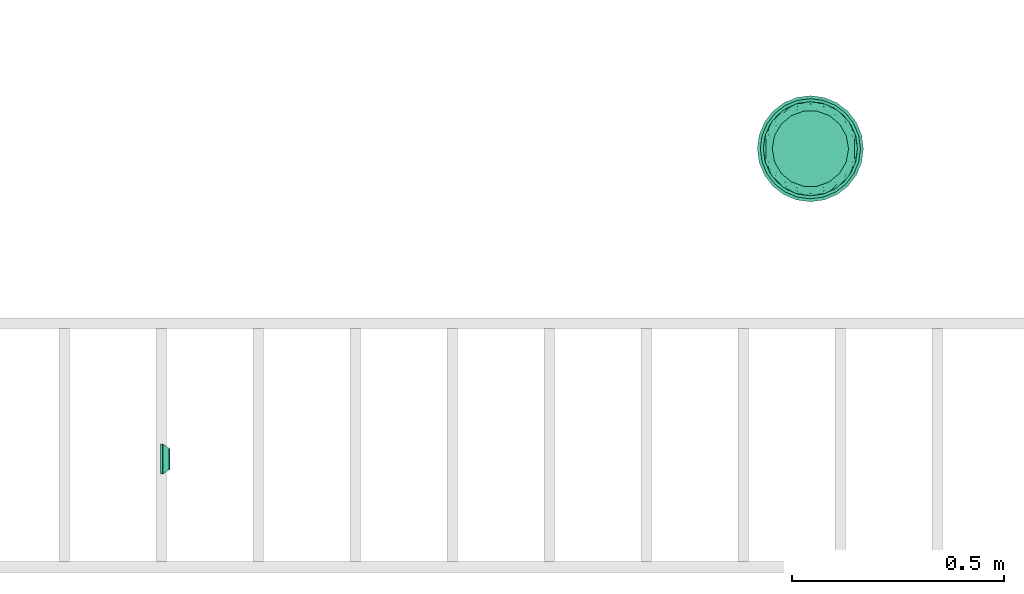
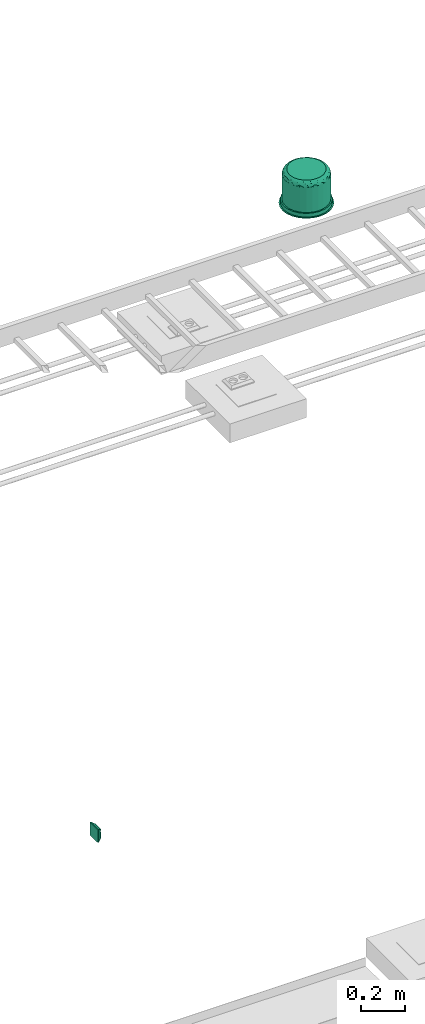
# One storey, part 7 of 24: 2 flow terminals.
"""IFC2X3 building model written with IfcOpenShell, lengths in millimetres."""

from ifc_helpers import new_model, entity, si_unit, converted_unit, derived_unit, direction, frame, origin_with_axes, place, context, subcontext, project, spatial, open_shell, surface_model, source, transform, mapped, type_object, element, save


model = new_model("IFC2X3")

# Units and contexts
model_context = context("Model", 3, precision=0.01, world=frame((0.0, 4.29681676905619e-09, 0.0)), true_north=direction((4.01073788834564e-13, 1.0)))
plan_context = context("Plan", 3, precision=0.01, world=frame((0.0, 4.29681676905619e-09, 0.0)), true_north=direction((4.01073788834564e-13, 1.0)))
body_context = subcontext(model_context, "Body", "Model", "MODEL_VIEW")
ifc_project = project(units=[converted_unit("PLANEANGLEUNIT", "DEGREE", entity("IfcPositiveLengthMeasure", 0.0174532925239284), si_unit("PLANEANGLEUNIT", "RADIAN"), dimensions=[0, 0, 0, 0, 0, 0, 0]), si_unit("AREAUNIT", "SQUARE_METRE"), si_unit("LENGTHUNIT", "METRE", prefix="MILLI"), si_unit("MASSUNIT", "GRAM", prefix="KILO"), si_unit("POWERUNIT", "WATT"), si_unit("PRESSUREUNIT", "PASCAL"), si_unit("FORCEUNIT", "NEWTON", prefix="KILO"), si_unit("ELECTRICVOLTAGEUNIT", "VOLT"), si_unit("ELECTRICCURRENTUNIT", "AMPERE"), si_unit("THERMODYNAMICTEMPERATUREUNIT", "DEGREE_CELSIUS"), si_unit("TIMEUNIT", "SECOND"), si_unit("VOLUMEUNIT", "CUBIC_METRE"), derived_unit("LINEARVELOCITYUNIT", [(si_unit("LENGTHUNIT", "METRE"), 1), (si_unit("TIMEUNIT", "SECOND"), -1)]), derived_unit("VOLUMETRICFLOWRATEUNIT", [(si_unit("VOLUMEUNIT", "CUBIC_METRE"), 1), (si_unit("TIMEUNIT", "SECOND"), -1)]), derived_unit("THERMALTRANSMITTANCEUNIT", [(si_unit("POWERUNIT", "WATT"), 1), (si_unit("THERMODYNAMICTEMPERATUREUNIT", "KELVIN"), -1), (si_unit("AREAUNIT", "SQUARE_METRE"), -1)]), derived_unit("SOUNDPRESSUREUNIT", [(si_unit("PRESSUREUNIT", "PASCAL"), 1)])], contexts=[model_context, plan_context])

# Site, building, storey
site_placement = place(None, frame((0.0, -4.29681676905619e-09, 0.0), z_axis=(0.0, 0.0, 1.0), x_axis=(1.0, 0.0, 0.0)))
site = spatial("IfcSite", under=ifc_project, at=site_placement, Name="ENGM", CompositionType="ELEMENT")
building_placement = place(site_placement, frame((0.0, 4.29681676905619e-09, 0.0), z_axis=(0.0, 0.0, 1.0), x_axis=(1.0, 0.0, 0.0)))
building = spatial("IfcBuilding", under=site, at=building_placement, Name="TH", CompositionType="ELEMENT")
storey_placement = place(building_placement, frame((0.0, 0.0, 210200.0), z_axis=(0.0, 0.0, 1.0), x_axis=(1.0, 0.0, 0.0)))
storey = spatial("IfcBuildingStorey", under=building, at=storey_placement, Name="Nivå F - 0,7 m", CompositionType="ELEMENT", Elevation=210200.0)

# Flow terminals
outlet_type = type_object("IfcOutletType", Name="Datauttak enkelt Vegg - IKT", PredefinedType="COMMUNICATIONSOUTLET")
shared_shape_1 = source(origin_with_axes(), body_context, "Body", "SurfaceModel", [
    surface_model("IfcShellBasedSurfaceModel", [(35.5, 5.05547, 35.5832), (25.5, 20.05547, 25.5832), (-35.5, 5.05547, 35.5832), (-25.5, 20.05547, 25.5832), (-35.5, 4.94453, 35.41679), (-25.5, 19.94453, 25.41679), (25.5, 19.94453, 25.41679), (35.5, 4.94453, 35.41679), (35.5, 4.94453, -35.41679), (25.5, 19.94453, -25.41679), (-35.5, 4.94453, -35.41679), (-25.5, 19.94453, -25.41679), (-35.5, 5.05547, -35.5832), (-25.5, 20.05547, -25.5832), (25.5, 20.05547, -25.5832), (35.5, 5.05547, -35.5832), (-25.5832, 20.05547, -25.5), (-35.5832, 5.05547, -35.5), (-35.5832, 5.05547, 35.5), (-25.5832, 20.05547, 25.5), (-25.41679, 19.94453, 25.5), (-35.41679, 4.94453, 35.5), (-25.41679, 19.94453, -25.5), (-35.41679, 4.94453, -35.5), (25.41679, 19.94453, -25.5), (35.41679, 4.94453, -35.5), (35.41679, 4.94453, 35.5), (25.41679, 19.94453, 25.5), (25.5832, 20.05547, 25.5), (35.5832, 5.05547, 35.5), (25.5832, 20.05547, -25.5), (35.5832, 5.05547, -35.5), (35.4, 5.0, -35.5), (35.4, 0.0, -35.5), (35.4, 0.0, 35.5), (35.4, 5.0, 35.5), (35.6, 5.0, 35.5), (35.6, 0.0, 35.5), (35.6, 0.0, -35.5), (35.6, 5.0, -35.5), (-35.5, 0.0, -35.6), (-35.5, 5.0, -35.6), (35.5, 5.0, -35.6), (35.5, 0.0, -35.6), (35.5, 0.0, -35.4), (35.5, 5.0, -35.4), (-35.5, 5.0, -35.4), (-35.5, 0.0, -35.4), (-35.6, 5.0, -35.5), (-35.6, 0.0, -35.5), (-35.6, 0.0, 35.5), (-35.6, 5.0, 35.5), (-35.4, 5.0, 35.5), (-35.4, 0.0, 35.5), (-35.4, 0.0, -35.5), (-35.4, 5.0, -35.5), (-35.5, -0.1, -35.5), (35.5, -0.1, -35.5), (35.5, -0.1, 35.5), (-35.5, -0.1, 35.5), (-35.5, 0.1, 35.5), (35.5, 0.1, 35.5), (35.5, 0.1, -35.5), (-35.5, 0.1, -35.5), (-35.5, 0.0, 35.4), (-35.5, 5.0, 35.4), (35.5, 5.0, 35.4), (35.5, 0.0, 35.4), (35.5, 0.0, 35.6), (35.5, 5.0, 35.6), (-35.5, 5.0, 35.6), (-35.5, 0.0, 35.6), (-25.5, 19.9, -25.5), (25.5, 19.9, -25.5), (25.5, 19.9, 25.5), (-25.5, 19.9, 25.5), (-25.5, 20.1, 25.5), (25.5, 20.1, 25.5), (25.5, 20.1, -25.5), (-25.5, 20.1, -25.5), (-25.5, 22.0, 25.5), (-25.5, 20.0, 25.5), (25.5, 20.0, 25.5), (25.5, 22.0, 25.5), (25.5, 22.0, 20.5), (25.5, 20.0, 20.5), (-25.5, 20.0, 20.5), (-25.5, 22.0, 20.5), (-25.5, 22.0, 10.5), (-25.5, 20.0, 10.5), (25.5, 20.0, 10.5), (25.5, 22.0, 10.5), (25.5, 22.0, -25.5), (25.5, 20.0, -25.5), (-25.5, 20.0, -25.5), (-25.5, 22.0, -25.5), (-7.5, 21.91, -6.5), (7.5, 21.91, -6.5), (7.5, 21.91, 8.5), (-7.5, 21.91, 8.5), (-7.5, 22.11, 8.5), (7.5, 22.11, 8.5), (-7.5, 22.11, -6.5), (7.5, 22.11, -6.5)], [open_shell([[[0, 1, 2]], [[3, 2, 1]], [[4, 5, 6]], [[6, 7, 4]], [[3, 1, 6]], [[6, 5, 3]], [[2, 3, 4]], [[5, 4, 3]], [[0, 2, 7]], [[4, 7, 2]], [[1, 0, 6]], [[7, 6, 0]], [[8, 9, 10]], [[11, 10, 9]], [[12, 13, 14]], [[14, 15, 12]], [[11, 9, 14]], [[14, 13, 11]], [[10, 11, 12]], [[13, 12, 11]], [[8, 10, 12]], [[12, 15, 8]], [[9, 8, 14]], [[15, 14, 8]], [[16, 17, 18]], [[18, 19, 16]], [[20, 21, 22]], [[23, 22, 21]], [[18, 17, 23]], [[23, 21, 18]], [[19, 18, 20]], [[21, 20, 18]], [[16, 19, 20]], [[20, 22, 16]], [[17, 16, 22]], [[22, 23, 17]], [[24, 25, 26]], [[26, 27, 24]], [[28, 29, 30]], [[31, 30, 29]], [[26, 25, 31]], [[31, 29, 26]], [[27, 26, 28]], [[29, 28, 26]], [[24, 27, 28]], [[28, 30, 24]], [[25, 24, 30]], [[30, 31, 25]], [[32, 33, 34]], [[34, 35, 32]], [[36, 37, 38]], [[38, 39, 36]], [[34, 33, 38]], [[38, 37, 34]], [[35, 34, 37]], [[37, 36, 35]], [[32, 35, 36]], [[36, 39, 32]], [[33, 32, 39]], [[39, 38, 33]], [[40, 41, 42]], [[42, 43, 40]], [[44, 45, 46]], [[46, 47, 44]], [[42, 41, 46]], [[46, 45, 42]], [[43, 42, 45]], [[45, 44, 43]], [[40, 43, 44]], [[44, 47, 40]], [[41, 40, 47]], [[47, 46, 41]], [[48, 49, 50]], [[50, 51, 48]], [[52, 53, 54]], [[54, 55, 52]], [[50, 49, 54]], [[54, 53, 50]], [[51, 50, 53]], [[53, 52, 51]], [[48, 51, 52]], [[52, 55, 48]], [[49, 48, 55]], [[55, 54, 49]], [[56, 57, 58]], [[58, 59, 56]], [[60, 61, 62]], [[62, 63, 60]], [[58, 57, 62]], [[62, 61, 58]], [[59, 58, 61]], [[61, 60, 59]], [[56, 59, 60]], [[60, 63, 56]], [[57, 56, 63]], [[63, 62, 57]], [[64, 65, 66]], [[66, 67, 64]], [[68, 69, 70]], [[70, 71, 68]], [[66, 65, 70]], [[70, 69, 66]], [[67, 66, 69]], [[69, 68, 67]], [[64, 67, 68]], [[68, 71, 64]], [[65, 64, 71]], [[71, 70, 65]], [[72, 73, 74]], [[74, 75, 72]], [[76, 77, 78]], [[78, 79, 76]], [[74, 73, 78]], [[78, 77, 74]], [[75, 74, 77]], [[77, 76, 75]], [[72, 75, 76]], [[76, 79, 72]], [[73, 72, 79]], [[79, 78, 73]], [[80, 81, 82]], [[82, 83, 80]], [[84, 85, 86]], [[86, 87, 84]], [[82, 81, 86]], [[86, 85, 82]], [[83, 82, 85]], [[85, 84, 83]], [[80, 83, 84]], [[84, 87, 80]], [[81, 80, 87]], [[87, 86, 81]], [[88, 89, 90]], [[90, 91, 88]], [[92, 93, 94]], [[94, 95, 92]], [[90, 89, 94]], [[94, 93, 90]], [[91, 90, 93]], [[93, 92, 91]], [[88, 91, 92]], [[92, 95, 88]], [[89, 88, 95]], [[95, 94, 89]], [[96, 97, 98]], [[98, 99, 96]], [[100, 101, 102]], [[103, 102, 101]], [[98, 97, 103]], [[103, 101, 98]], [[99, 98, 101]], [[101, 100, 99]], [[96, 99, 100]], [[100, 102, 96]], [[97, 96, 102]], [[102, 103, 97]]])]),
])
flow_terminal_1_placement = place(storey_placement, frame((895512.745, 483447.19745, 200.0), z_axis=(0.0, 0.0, 1.0), x_axis=(0.0, -1.0, 0.0)))
element("IfcFlowTerminal", 1, at=flow_terminal_1_placement, inside=storey, type_object=outlet_type, Name="Datauttak enkelt Vegg - IKT", context=body_context, shape_type="MappedRepresentation", body=[
    mapped(shared_shape_1, transform((0.0, 0.0, 0.0), scale=1.0)),
])
electric_appliance_type = type_object("IfcElectricApplianceType", Name="Høyttaler innfelt", PredefinedType="NOTDEFINED")
shared_shape_2 = source(origin_with_axes(), body_context, "Body", "SurfaceModel", [
    surface_model("IfcShellBasedSurfaceModel", [(-68.944, 57.85088, 184.0), (-58.59195, 79.97902, 179.50754), (-80.0329, 55.28406, 180.76938), (-78.29994, 75.83774, 166.88554), (-50.40099, 96.24365, 167.73947), (-65.24416, 89.80089, 159.0), (-45.0, 77.94229, 184.0), (104.29833, 0.0, 174.69059), (98.55658, 30.89802, 175.83351), (97.14917, 0.0, 179.3453), (-98.55658, 30.89802, 175.83351), (-104.29833, 0.0, 174.69059), (-97.14917, 0.0, 179.3453), (93.09772, 49.71788, 173.10261), (104.32878, 23.10743, 171.13623), (97.92626, 46.3605, 168.38431), (-15.62834, 88.6327, 184.0), (-30.79138, 92.23996, 180.78615), (-104.32878, 23.10743, 171.13623), (55.89313, 88.54638, 174.18746), (30.93861, 99.42219, 174.89528), (58.59195, 79.97902, 179.50754), (-97.92626, 46.3605, 168.38431), (-93.09772, 49.71788, 173.10261), (-61.47959, 85.0435, 173.90083), (-30.93861, 99.42219, 174.89528), (45.0, 77.94229, 184.0), (68.944, 57.85088, 184.0), (-84.57234, 30.78181, 184.0), (-92.49153, 28.27678, 181.10339), (-89.80089, 65.24416, 159.0), (17.39577, 107.47851, 167.19599), (34.30089, 105.56728, 159.0), (0.0, 111.0, 159.0), (-34.30089, 105.56728, 159.0), (-17.39574, 107.47094, 167.21376), (30.79138, 92.23996, 180.78615), (0.0, 99.14465, 179.50754), (15.62834, 88.6327, 184.0), (-81.90835, 64.40302, 174.81219), (0.05017, 105.30857, 173.41796), (80.0329, 55.28406, 180.76938), (84.57234, 30.78181, 184.0), (90.0, 0.0, 184.0), (92.49153, 28.27678, 181.10339), (50.40099, 96.24365, 167.73947), (89.80089, 65.24416, 159.0), (105.56728, 34.30089, 159.0), (65.24416, 89.80089, 159.0), (-105.56728, 34.30089, 159.0), (78.29994, 75.83774, 166.88554), (105.52114, 29.61929, 165.29825), (90.11049, 46.65977, 177.6147), (-90.11049, 46.65977, 177.6147), (-107.8502, 0.0, 166.3746), (-105.52114, 29.61929, 165.29825), (-90.0, 0.0, 184.0), (81.90835, 64.40302, 174.81219), (-111.0, 0.0, 159.0), (111.0, 0.0, 159.0), (107.8502, 0.0, 166.3746), (68.944, -57.85088, 184.0), (58.59195, -79.97902, 179.50754), (80.0329, -55.28406, 180.76938), (78.29994, -75.83774, 166.88554), (50.40099, -96.24365, 167.73947), (65.24416, -89.80089, 159.0), (45.0, -77.94229, 184.0), (-98.55658, -30.89802, 175.83351), (98.55658, -30.89802, 175.83351), (-93.09772, -49.71788, 173.10261), (-104.32878, -23.10743, 171.13623), (-97.92626, -46.3605, 168.38431), (15.62834, -88.6327, 184.0), (30.79138, -92.23996, 180.78615), (104.32878, -23.10743, 171.13623), (-55.89313, -88.54638, 174.18746), (-30.93861, -99.42219, 174.89528), (-58.59195, -79.97902, 179.50754), (97.92626, -46.3605, 168.38431), (93.09772, -49.71788, 173.10261), (61.47959, -85.0435, 173.90083), (30.93861, -99.42219, 174.89528), (-45.0, -77.94229, 184.0), (-68.944, -57.85088, 184.0), (84.57234, -30.78181, 184.0), (92.49153, -28.27678, 181.10339), (89.80089, -65.24416, 159.0), (-17.39577, -107.47851, 167.19599), (-34.30089, -105.56728, 159.0), (0.0, -111.0, 159.0), (34.30089, -105.56728, 159.0), (17.39574, -107.47094, 167.21376), (81.90835, -64.40302, 174.81219), (-30.79138, -92.23996, 180.78615), (-15.62834, -88.6327, 184.0), (0.0, -99.14465, 179.50754), (-0.05017, -105.30857, 173.41796), (-80.0329, -55.28406, 180.76938), (-84.57234, -30.78181, 184.0), (-92.49153, -28.27678, 181.10339), (-50.40099, -96.24365, 167.73947), (-89.80089, -65.24416, 159.0), (-105.56728, -34.30089, 159.0), (-65.24416, -89.80089, 159.0), (-78.29994, -75.83774, 166.88554), (-90.11049, -46.65977, 177.6147), (-105.52114, -29.61929, 165.29825), (105.56728, -34.30089, 159.0), (90.11049, -46.65977, 177.6147), (105.52114, -29.61929, 165.29825), (-81.90835, -64.40302, 174.81219), (0.0, 0.0, 159.0), (0.0, 0.0, 184.0), (96.12882, -55.5, 159.0), (28.72892, -107.21777, 159.0), (55.5, -96.12882, 159.0), (78.48885, -78.48885, 159.0), (107.21777, -28.72892, 159.0), (-78.48885, -78.48885, 159.0), (-96.12882, 55.5, 159.0), (-55.5, -96.12882, 159.0), (-28.72892, -107.21777, 159.0), (-96.12882, -55.5, 159.0), (-107.21777, -28.72892, 159.0), (107.21777, 28.72892, 159.0), (55.5, 96.12882, 159.0), (96.12882, 55.5, 159.0), (78.48885, 78.48885, 159.0), (28.72892, 107.21777, 159.0), (-28.72892, 107.21777, 159.0), (-107.21777, 28.72892, 159.0), (-78.48885, 78.48885, 159.0), (-55.5, 96.12882, 159.0), (28.72892, 107.21777, 20.0), (-28.72892, 107.21777, 20.0), (0.0, 111.0, 20.0), (96.12882, 55.5, 20.0), (55.5, 96.12882, 20.0), (107.21777, 28.72892, 20.0), (78.48885, 78.48885, 20.0), (-96.12882, 55.5, 20.0), (-78.48885, 78.48885, 20.0), (-55.5, 96.12882, 20.0), (-107.21777, 28.72892, 20.0), (-96.12882, -55.5, 20.0), (-111.0, 0.0, 20.0), (-78.48885, -78.48885, 20.0), (111.0, 0.0, 20.0), (107.21777, -28.72892, 20.0), (96.12882, -55.5, 20.0), (28.72892, -107.21777, 20.0), (55.5, -96.12882, 20.0), (78.48885, -78.48885, 20.0), (-107.21777, -28.72892, 20.0), (-55.5, -96.12882, 20.0), (0.0, -111.0, 20.0), (-28.72892, -107.21777, 20.0), (0.0, -118.0, 20.0), (30.54065, -113.97924, 20.0), (59.0, -102.191, 20.0), (83.4386, -83.4386, 20.0), (102.191, -59.0, 20.0), (113.97924, -30.54065, 20.0), (118.0, 0.0, 20.0), (-30.54065, -113.97924, 20.0), (-83.4386, -83.4386, 20.0), (-59.0, -102.191, 20.0), (-118.0, 0.0, 20.0), (-102.191, -59.0, 20.0), (-113.97924, -30.54065, 20.0), (113.97924, 30.54065, 20.0), (102.191, 59.0, 20.0), (83.4386, 83.4386, 20.0), (59.0, 102.191, 20.0), (30.54065, 113.97924, 20.0), (0.0, 118.0, 20.0), (-30.54065, 113.97924, 20.0), (-102.191, 59.0, 20.0), (-113.97924, 30.54065, 20.0), (-83.4386, 83.4386, 20.0), (-59.0, 102.191, 20.0), (0.0, 118.0, 0.0), (30.54065, 113.97924, 0.0), (59.0, 102.191, 0.0), (-83.4386, 83.4386, 0.0), (83.4386, 83.4386, 0.0), (102.191, 59.0, 0.0), (113.97924, 30.54065, 0.0), (-118.0, 0.0, 0.0), (-113.97924, -30.54065, 0.0), (-30.54065, 113.97924, 0.0), (-59.0, 102.191, 0.0), (-102.191, 59.0, 0.0), (-113.97924, 30.54065, 0.0), (118.0, 0.0, 0.0), (113.97924, -30.54065, 0.0), (102.191, -59.0, 0.0), (83.4386, -83.4386, 0.0), (59.0, -102.191, 0.0), (30.54065, -113.97924, 0.0), (-83.4386, -83.4386, 0.0), (-102.191, -59.0, 0.0), (-30.54065, -113.97924, 0.0), (-59.0, -102.191, 0.0), (0.0, -118.0, 0.0), (-32.35238, 120.74073, 0.0), (-62.5, 108.25318, 0.0), (-88.38835, 88.38835, 0.0), (-108.25318, 62.5, 0.0), (-120.74073, 32.35238, 0.0), (62.5, 108.25318, 0.0), (-125.0, 0.0, 0.0), (0.0, 125.0, 0.0), (32.35238, 120.74073, 0.0), (88.38835, 88.38835, 0.0), (120.74073, 32.35238, 0.0), (108.25318, 62.5, 0.0), (-120.74073, -32.35238, 0.0), (125.0, 0.0, 0.0), (-108.25318, -62.5, 0.0), (-32.35238, -120.74073, 0.0), (-88.38835, -88.38835, 0.0), (-62.5, -108.25318, 0.0), (0.0, -125.0, 0.0), (120.74073, -32.35238, 0.0), (88.38835, -88.38835, 0.0), (108.25318, -62.5, 0.0), (32.35238, -120.74073, 0.0), (62.5, -108.25318, 0.0), (-32.35238, -120.74073, -3.0), (88.38835, -88.38835, -3.0), (0.0, -125.0, -3.0), (-88.38835, -88.38835, -3.0), (-62.5, -108.25318, -3.0), (-108.25318, -62.5, -3.0), (-120.74073, -32.35238, -3.0), (88.38835, 88.38835, -3.0), (32.35238, -120.74073, -3.0), (62.5, -108.25318, -3.0), (120.74073, -32.35238, -3.0), (108.25318, -62.5, -3.0), (125.0, 0.0, -3.0), (-125.0, 0.0, -3.0), (-120.74073, 32.35238, -3.0), (-32.35238, 120.74073, -3.0), (-108.25318, 62.5, -3.0), (-88.38835, 88.38835, -3.0), (-62.5, 108.25318, -3.0), (120.74073, 32.35238, -3.0), (108.25318, 62.5, -3.0), (62.5, 108.25318, -3.0), (0.0, 125.0, -3.0), (32.35238, 120.74073, -3.0), (-84.57234, 30.78181, -6.0), (-102.5, 0.0, -5.0), (-96.31849, 35.05706, -5.0), (-45.0, 77.94229, -6.0), (-78.51955, 65.88573, -5.0), (-51.25, 88.7676, -5.0), (-68.944, 57.85088, -6.0), (-17.79894, 100.94279, -5.0), (-15.62834, 88.6327, -6.0), (-90.0, 0.0, -6.0), (15.62834, 88.6327, -6.0), (45.0, 77.94229, -6.0), (17.79894, 100.94279, -5.0), (51.25, 88.7676, -5.0), (96.31849, 35.05706, -5.0), (102.5, 0.0, -5.0), (90.0, 0.0, -6.0), (78.51955, 65.88573, -5.0), (68.944, 57.85088, -6.0), (84.57234, 30.78181, -6.0), (84.57234, -30.78181, -6.0), (96.31849, -35.05706, -5.0), (45.0, -77.94229, -6.0), (78.51955, -65.88573, -5.0), (51.25, -88.7676, -5.0), (68.944, -57.85088, -6.0), (17.79894, -100.94279, -5.0), (15.62834, -88.6327, -6.0), (-15.62834, -88.6327, -6.0), (-45.0, -77.94229, -6.0), (-17.79894, -100.94279, -5.0), (-51.25, -88.7676, -5.0), (-84.57234, -30.78181, -6.0), (-78.51955, -65.88573, -5.0), (-96.31849, -35.05706, -5.0), (-68.944, -57.85088, -6.0), (0.0, 0.0, -6.0), (106.99386, 34.76441, -3.0), (0.0, 0.0, -3.0), (112.5, 0.0, -3.0), (91.01441, 66.12584, -3.0), (66.12584, 91.01441, -3.0), (34.76441, 106.99386, -3.0), (0.0, 112.5, -3.0), (-91.01441, 66.12584, -3.0), (-106.99386, 34.76441, -3.0), (-66.12584, 91.01441, -3.0), (-34.76441, 106.99386, -3.0), (-112.5, 0.0, -3.0), (66.12584, -91.01441, -3.0), (91.01441, -66.12584, -3.0), (34.76441, -106.99386, -3.0), (106.99386, -34.76441, -3.0), (0.0, -112.5, -3.0), (-66.12584, -91.01441, -3.0), (-34.76441, -106.99386, -3.0), (-91.01441, -66.12584, -3.0), (-106.99386, -34.76441, -3.0)], [open_shell([[[0, 1, 2]], [[3, 4, 5]], [[0, 6, 1]], [[7, 8, 9]], [[10, 11, 12]], [[13, 14, 15]], [[7, 14, 8]], [[6, 16, 17]], [[18, 11, 10]], [[19, 20, 21]], [[22, 23, 3]], [[24, 25, 4]], [[26, 27, 21]], [[28, 2, 29]], [[3, 5, 30]], [[31, 32, 33]], [[33, 34, 35]], [[36, 37, 38]], [[4, 35, 34]], [[1, 24, 39]], [[26, 36, 38]], [[17, 37, 25]], [[20, 31, 40]], [[21, 20, 36]], [[41, 21, 27]], [[41, 27, 42]], [[0, 2, 28]], [[43, 9, 44]], [[20, 19, 45]], [[46, 15, 47]], [[17, 1, 6]], [[31, 20, 45]], [[48, 32, 45]], [[30, 49, 22]], [[34, 5, 4]], [[15, 46, 50]], [[14, 51, 15]], [[48, 50, 46]], [[33, 35, 31]], [[8, 13, 52]], [[2, 39, 53]], [[37, 16, 38]], [[54, 18, 55]], [[28, 29, 56]], [[45, 19, 50]], [[37, 17, 16]], [[1, 17, 25]], [[21, 36, 26]], [[37, 36, 20]], [[1, 39, 2]], [[23, 53, 39]], [[44, 41, 42]], [[57, 21, 41]], [[10, 12, 29]], [[22, 18, 23]], [[13, 8, 14]], [[52, 41, 44]], [[4, 25, 35]], [[25, 37, 40]], [[31, 35, 40]], [[45, 32, 31]], [[22, 3, 30]], [[3, 39, 24]], [[45, 50, 48]], [[50, 57, 13]], [[58, 54, 55]], [[23, 18, 10]], [[59, 47, 51]], [[56, 29, 12]], [[43, 44, 42]], [[8, 44, 9]], [[25, 40, 35]], [[20, 40, 37]], [[25, 24, 1]], [[3, 24, 4]], [[21, 57, 19]], [[50, 19, 57]], [[53, 23, 10]], [[3, 23, 39]], [[10, 29, 53]], [[2, 53, 29]], [[50, 13, 15]], [[52, 13, 57]], [[41, 52, 57]], [[44, 8, 52]], [[55, 18, 22]], [[54, 11, 18]], [[22, 49, 55]], [[55, 49, 58]], [[7, 60, 14]], [[60, 59, 51]], [[60, 51, 14]], [[47, 15, 51]], [[61, 62, 63]], [[64, 65, 66]], [[61, 67, 62]], [[11, 68, 12]], [[69, 7, 9]], [[70, 71, 72]], [[11, 71, 68]], [[67, 73, 74]], [[75, 7, 69]], [[76, 77, 78]], [[79, 80, 64]], [[81, 82, 65]], [[83, 84, 78]], [[85, 63, 86]], [[64, 66, 87]], [[88, 89, 90]], [[90, 91, 92]], [[91, 66, 65]], [[65, 92, 91]], [[62, 81, 93]], [[83, 94, 95]], [[74, 96, 82]], [[77, 88, 97]], [[78, 77, 94]], [[98, 78, 84]], [[98, 84, 99]], [[61, 63, 85]], [[56, 12, 100]], [[77, 76, 101]], [[102, 72, 103]], [[104, 105, 102]], [[88, 77, 101]], [[104, 89, 101]], [[68, 70, 106]], [[74, 62, 67]], [[72, 102, 105]], [[71, 107, 72]], [[87, 108, 79]], [[90, 92, 88]], [[94, 96, 95]], [[63, 93, 109]], [[96, 73, 95]], [[60, 75, 110]], [[85, 86, 43]], [[101, 76, 105]], [[96, 74, 73]], [[62, 74, 82]], [[78, 94, 83]], [[96, 94, 77]], [[62, 93, 63]], [[80, 109, 93]], [[100, 98, 99]], [[111, 78, 98]], [[69, 9, 86]], [[79, 75, 80]], [[70, 68, 71]], [[106, 98, 100]], [[65, 82, 92]], [[82, 96, 97]], [[88, 92, 97]], [[101, 89, 88]], [[79, 64, 87]], [[64, 93, 81]], [[101, 105, 104]], [[105, 111, 70]], [[59, 60, 110]], [[80, 75, 69]], [[58, 103, 107]], [[43, 86, 9]], [[56, 100, 99]], [[68, 100, 12]], [[82, 97, 92]], [[77, 97, 96]], [[82, 81, 62]], [[64, 81, 65]], [[78, 111, 76]], [[105, 76, 111]], [[109, 80, 69]], [[64, 80, 93]], [[69, 86, 109]], [[63, 109, 86]], [[105, 70, 72]], [[106, 70, 111]], [[98, 106, 111]], [[100, 68, 106]], [[110, 75, 79]], [[60, 7, 75]], [[79, 108, 110]], [[110, 108, 59]], [[11, 54, 71]], [[54, 58, 107]], [[54, 107, 71]], [[103, 72, 107]], [[59, 112, 47]], [[47, 112, 46]], [[112, 48, 46]], [[48, 112, 32]], [[112, 33, 32]], [[112, 49, 30]], [[30, 5, 112]], [[34, 33, 112]], [[112, 5, 34]], [[112, 58, 49]], [[112, 87, 66]], [[112, 66, 91]], [[112, 108, 87]], [[59, 108, 112]], [[91, 90, 112]], [[112, 89, 104]], [[112, 104, 102]], [[112, 103, 58]], [[103, 112, 102]], [[89, 112, 90]], [[27, 113, 42]], [[26, 113, 27]], [[113, 26, 38]], [[113, 43, 42]], [[28, 56, 113]], [[0, 28, 113]], [[16, 6, 113]], [[0, 113, 6]], [[38, 16, 113]], [[67, 61, 113]], [[61, 85, 113]], [[113, 85, 43]], [[73, 67, 113]], [[83, 95, 113]], [[84, 83, 113]], [[56, 99, 113]], [[84, 113, 99]], [[73, 113, 95]], [[114, 115, 116]], [[114, 116, 117]], [[114, 118, 59]], [[114, 59, 115]], [[119, 115, 120]], [[90, 121, 122]], [[90, 115, 121]], [[123, 58, 124]], [[121, 115, 119]], [[123, 119, 58]], [[125, 115, 59]], [[126, 125, 127]], [[126, 127, 128]], [[125, 129, 120]], [[129, 125, 126]], [[130, 129, 33]], [[119, 131, 58]], [[120, 131, 119]], [[132, 130, 133]], [[130, 132, 120]], [[129, 130, 120]], [[120, 115, 125]], [[134, 135, 136]], [[137, 134, 138]], [[137, 139, 134]], [[137, 138, 140]], [[141, 134, 139]], [[135, 142, 143]], [[142, 135, 141]], [[144, 145, 146]], [[141, 135, 134]], [[144, 141, 145]], [[141, 139, 147]], [[148, 149, 150]], [[150, 151, 139]], [[152, 151, 150]], [[152, 150, 153]], [[139, 151, 147]], [[146, 145, 154]], [[147, 145, 141]], [[155, 156, 157]], [[155, 147, 151]], [[156, 155, 151]], [[139, 148, 150]], [[124, 154, 145]], [[147, 123, 145]], [[121, 155, 157]], [[147, 155, 119]], [[122, 157, 156]], [[154, 58, 146]], [[154, 124, 58]], [[145, 123, 124]], [[147, 119, 123]], [[121, 119, 155]], [[157, 122, 121]], [[156, 90, 122]], [[115, 151, 152]], [[153, 116, 152]], [[114, 150, 149]], [[153, 150, 117]], [[118, 149, 148]], [[151, 115, 90]], [[152, 116, 115]], [[153, 117, 116]], [[150, 114, 117]], [[118, 114, 149]], [[148, 59, 118]], [[151, 90, 156]], [[125, 148, 139]], [[127, 139, 137]], [[126, 138, 134]], [[129, 134, 136]], [[139, 127, 125]], [[125, 59, 148]], [[140, 128, 127]], [[140, 138, 128]], [[128, 138, 126]], [[134, 129, 126]], [[140, 127, 137]], [[136, 33, 129]], [[130, 135, 143]], [[142, 133, 143]], [[120, 141, 144]], [[142, 141, 132]], [[131, 144, 146]], [[135, 130, 33]], [[143, 133, 130]], [[142, 132, 133]], [[141, 120, 132]], [[131, 120, 144]], [[146, 58, 131]], [[135, 33, 136]], [[158, 159, 160]], [[161, 158, 160]], [[162, 163, 164]], [[158, 161, 162]], [[158, 162, 164]], [[165, 166, 167]], [[166, 165, 158]], [[164, 166, 158]], [[166, 168, 169]], [[169, 168, 170]], [[168, 166, 164]], [[171, 172, 173]], [[168, 171, 173]], [[174, 175, 176]], [[168, 173, 174]], [[177, 174, 176]], [[168, 178, 179]], [[178, 168, 177]], [[180, 177, 181]], [[177, 180, 178]], [[168, 174, 177]], [[171, 168, 164]], [[182, 183, 184]], [[185, 182, 184]], [[186, 187, 188]], [[189, 184, 186]], [[190, 189, 186]], [[191, 185, 192]], [[191, 182, 185]], [[193, 189, 194]], [[185, 184, 193]], [[184, 189, 193]], [[186, 188, 190]], [[195, 196, 197]], [[197, 198, 188]], [[190, 198, 199]], [[198, 190, 188]], [[200, 190, 199]], [[200, 201, 202]], [[202, 190, 200]], [[201, 203, 204]], [[203, 201, 205]], [[205, 201, 200]], [[188, 195, 197]], [[190, 170, 189]], [[202, 169, 190]], [[167, 201, 204]], [[202, 201, 166]], [[165, 204, 203]], [[190, 169, 170]], [[170, 168, 189]], [[165, 167, 204]], [[166, 201, 167]], [[166, 169, 202]], [[158, 165, 203]], [[203, 205, 158]], [[200, 159, 205]], [[199, 160, 200]], [[162, 198, 197]], [[199, 198, 161]], [[163, 197, 196]], [[199, 161, 160]], [[160, 159, 200]], [[164, 163, 196]], [[162, 197, 163]], [[162, 161, 198]], [[195, 164, 196]], [[205, 159, 158]], [[188, 171, 195]], [[187, 172, 188]], [[174, 186, 184]], [[187, 186, 173]], [[175, 184, 183]], [[188, 172, 171]], [[171, 164, 195]], [[175, 174, 184]], [[173, 186, 174]], [[173, 172, 187]], [[176, 175, 183]], [[183, 182, 176]], [[191, 177, 182]], [[192, 181, 191]], [[179, 194, 189]], [[185, 180, 192]], [[192, 180, 181]], [[181, 177, 191]], [[193, 178, 180]], [[193, 194, 178]], [[178, 194, 179]], [[189, 168, 179]], [[193, 180, 185]], [[182, 177, 176]], [[206, 207, 208]], [[206, 208, 209]], [[206, 210, 211]], [[210, 206, 209]], [[211, 210, 212]], [[213, 211, 214]], [[213, 206, 211]], [[215, 216, 217]], [[218, 215, 211]], [[219, 216, 215]], [[218, 211, 212]], [[220, 219, 218]], [[221, 220, 222]], [[220, 221, 219]], [[221, 222, 223]], [[224, 219, 221]], [[225, 226, 227]], [[226, 225, 219]], [[226, 228, 229]], [[228, 226, 219]], [[219, 224, 228]], [[218, 219, 215]], [[230, 231, 232]], [[233, 230, 234]], [[235, 236, 230]], [[235, 230, 233]], [[230, 237, 231]], [[238, 231, 239]], [[238, 232, 231]], [[231, 240, 241]], [[240, 231, 242]], [[231, 237, 242]], [[230, 236, 243]], [[244, 237, 243]], [[245, 244, 246]], [[247, 248, 245]], [[247, 245, 246]], [[237, 244, 245]], [[249, 237, 250]], [[242, 237, 249]], [[251, 252, 253]], [[252, 251, 237]], [[245, 252, 237]], [[237, 230, 243]], [[249, 216, 242]], [[250, 217, 249]], [[211, 237, 251]], [[250, 237, 215]], [[214, 251, 253]], [[249, 217, 216]], [[216, 219, 242]], [[214, 211, 251]], [[215, 237, 211]], [[215, 217, 250]], [[213, 214, 253]], [[253, 252, 213]], [[245, 206, 252]], [[248, 207, 245]], [[209, 247, 246]], [[248, 247, 208]], [[210, 246, 244]], [[248, 208, 207]], [[207, 206, 245]], [[212, 210, 244]], [[209, 246, 210]], [[209, 208, 247]], [[243, 212, 244]], [[252, 206, 213]], [[236, 218, 243]], [[235, 220, 236]], [[223, 233, 234]], [[235, 233, 222]], [[221, 234, 230]], [[236, 220, 218]], [[218, 212, 243]], [[221, 223, 234]], [[222, 233, 223]], [[222, 220, 235]], [[224, 221, 230]], [[230, 232, 224]], [[228, 232, 238]], [[239, 229, 238]], [[227, 241, 240]], [[225, 240, 242]], [[239, 226, 229]], [[229, 228, 238]], [[231, 227, 226]], [[231, 241, 227]], [[227, 240, 225]], [[242, 219, 225]], [[231, 226, 239]], [[232, 228, 224]], [[254, 255, 256]], [[257, 258, 259]], [[256, 258, 260]], [[259, 261, 262]], [[263, 255, 254]], [[258, 257, 260]], [[260, 254, 256]], [[257, 259, 262]], [[261, 264, 262]], [[265, 266, 267]], [[268, 269, 270]], [[267, 271, 272]], [[268, 272, 271]], [[264, 266, 265]], [[265, 267, 272]], [[270, 273, 268]], [[268, 273, 272]], [[266, 264, 261]], [[274, 269, 275]], [[276, 277, 278]], [[275, 277, 279]], [[278, 280, 281]], [[270, 269, 274]], [[277, 276, 279]], [[279, 274, 275]], [[276, 278, 281]], [[280, 282, 281]], [[283, 284, 285]], [[286, 287, 288]], [[285, 287, 289]], [[288, 255, 263]], [[282, 284, 283]], [[287, 286, 289]], [[289, 283, 285]], [[286, 288, 263]], [[284, 282, 280]], [[273, 290, 272]], [[272, 290, 265]], [[264, 265, 290]], [[273, 270, 290]], [[290, 263, 254]], [[290, 254, 260]], [[290, 257, 262]], [[257, 290, 260]], [[290, 262, 264]], [[290, 279, 276]], [[290, 274, 279]], [[270, 274, 290]], [[290, 276, 281]], [[290, 282, 283]], [[290, 283, 289]], [[290, 286, 263]], [[286, 290, 289]], [[282, 290, 281]], [[291, 292, 293]], [[294, 292, 291]], [[294, 295, 292]], [[296, 292, 295]], [[296, 297, 292]], [[298, 299, 292]], [[292, 300, 298]], [[292, 297, 301]], [[301, 300, 292]], [[299, 302, 292]], [[303, 304, 292]], [[305, 303, 292]], [[304, 306, 292]], [[292, 306, 293]], [[292, 307, 305]], [[308, 309, 292]], [[310, 308, 292]], [[302, 311, 292]], [[310, 292, 311]], [[307, 292, 309]], [[255, 302, 299]], [[258, 298, 300]], [[299, 298, 256]], [[300, 301, 259]], [[255, 299, 256]], [[300, 259, 258]], [[258, 256, 298]], [[259, 301, 261]], [[301, 297, 261]], [[266, 297, 296]], [[291, 293, 269]], [[267, 296, 295]], [[295, 271, 267]], [[267, 266, 296]], [[291, 268, 294]], [[268, 291, 269]], [[294, 268, 271]], [[294, 271, 295]], [[297, 266, 261]], [[269, 293, 306]], [[277, 304, 303]], [[306, 304, 275]], [[303, 305, 278]], [[269, 306, 275]], [[303, 278, 277]], [[277, 275, 304]], [[278, 305, 280]], [[305, 307, 280]], [[284, 307, 309]], [[287, 308, 310]], [[309, 308, 285]], [[310, 311, 288]], [[308, 287, 285]], [[285, 284, 309]], [[311, 255, 288]], [[288, 287, 310]], [[311, 302, 255]], [[307, 284, 280]]])]),
])
flow_terminal_2_placement = place(storey_placement, frame((897044.19577, 484178.70135, 2700.0), z_axis=(0.0, 0.0, 1.0), x_axis=(1.0, 0.0, 0.0)))
element("IfcFlowTerminal", 2, at=flow_terminal_2_placement, inside=storey, type_object=electric_appliance_type, Name="Høyttaler innfelt", context=body_context, shape_type="MappedRepresentation", body=[
    mapped(shared_shape_2, transform((0.0, 0.0, 0.0), scale=1.0)),
])

save(model, "model.ifc")
